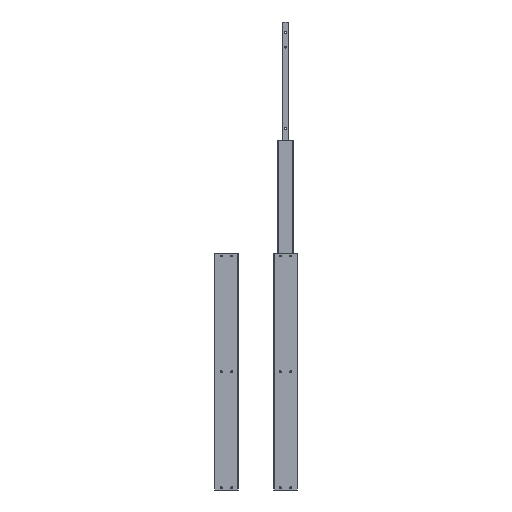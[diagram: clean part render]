
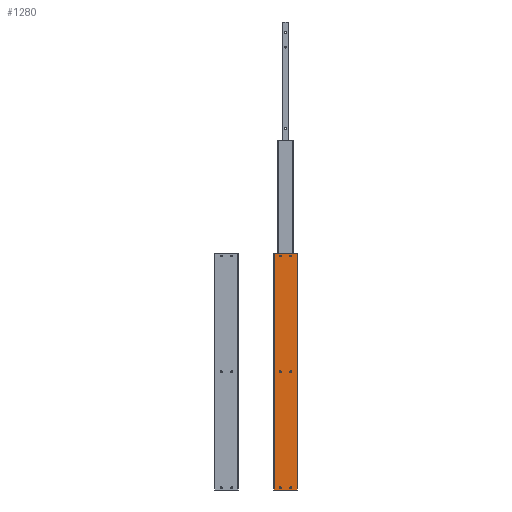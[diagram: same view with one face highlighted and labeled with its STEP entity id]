
A CAD part, left-side view. The second image highlights one B-rep face of the part: STEP entity #1280.
In plain terms, the highlighted planar face has unit normal (-1, 0, 0).
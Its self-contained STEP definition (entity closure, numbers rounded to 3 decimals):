
#213=CARTESIAN_POINT('',(0.,-17.5,-789.25));
#214=VERTEX_POINT('',#213);
#215=CARTESIAN_POINT('',(0.,-17.5,-792.5));
#216=DIRECTION('',(1.0,0.0,0.0));
#217=DIRECTION('',(0.0,0.0,-1.0));
#218=AXIS2_PLACEMENT_3D('',#215,#216,#217);
#219=CIRCLE('',#218,3.25);
#220=EDGE_CURVE('',#214,#214,#219,.T.);
#262=CARTESIAN_POINT('',(0.,17.5,-789.25));
#263=VERTEX_POINT('',#262);
#264=CARTESIAN_POINT('',(0.,17.5,-792.5));
#265=DIRECTION('',(1.0,0.0,0.0));
#266=DIRECTION('',(0.0,0.0,-1.0));
#267=AXIS2_PLACEMENT_3D('',#264,#265,#266);
#268=CIRCLE('',#267,3.25);
#269=EDGE_CURVE('',#263,#263,#268,.T.);
#360=CARTESIAN_POINT('',(0.,-17.5,-396.7));
#361=VERTEX_POINT('',#360);
#362=CARTESIAN_POINT('',(0.,-17.5,-400.0));
#363=DIRECTION('',(1.0,0.0,0.0));
#364=DIRECTION('',(0.0,0.0,-1.0));
#365=AXIS2_PLACEMENT_3D('',#362,#363,#364);
#366=CIRCLE('',#365,3.3);
#367=EDGE_CURVE('',#361,#361,#366,.T.);
#450=CARTESIAN_POINT('',(0.,17.5,-396.7));
#451=VERTEX_POINT('',#450);
#452=CARTESIAN_POINT('',(0.,17.5,-400.0));
#453=DIRECTION('',(1.0,0.0,0.0));
#454=DIRECTION('',(0.0,0.0,-1.0));
#455=AXIS2_PLACEMENT_3D('',#452,#453,#454);
#456=CIRCLE('',#455,3.3);
#457=EDGE_CURVE('',#451,#451,#456,.T.);
#540=CARTESIAN_POINT('',(0.,-17.5,-4.2));
#541=VERTEX_POINT('',#540);
#542=CARTESIAN_POINT('',(0.,-17.5,-7.5));
#543=DIRECTION('',(1.0,0.0,0.0));
#544=DIRECTION('',(0.0,0.0,-1.0));
#545=AXIS2_PLACEMENT_3D('',#542,#543,#544);
#546=CIRCLE('',#545,3.3);
#547=EDGE_CURVE('',#541,#541,#546,.T.);
#630=CARTESIAN_POINT('',(0.,17.5,-4.2));
#631=VERTEX_POINT('',#630);
#632=CARTESIAN_POINT('',(0.,17.5,-7.5));
#633=DIRECTION('',(1.0,0.0,0.0));
#634=DIRECTION('',(0.0,0.0,-1.0));
#635=AXIS2_PLACEMENT_3D('',#632,#633,#634);
#636=CIRCLE('',#635,3.3);
#637=EDGE_CURVE('',#631,#631,#636,.T.);
#957=CARTESIAN_POINT('',(0.,-39.,-800.0));
#958=VERTEX_POINT('',#957);
#967=CARTESIAN_POINT('',(0.,-39.,0.0));
#968=VERTEX_POINT('',#967);
#976=CARTESIAN_POINT('',(0.,-39.,0.0));
#977=DIRECTION('',(0.0,0.0,-1.0));
#978=VECTOR('',#977,800.0);
#979=LINE('',#976,#978);
#980=EDGE_CURVE('',#968,#958,#979,.T.);
#1213=CARTESIAN_POINT('',(0.,39.,-800.0));
#1214=VERTEX_POINT('',#1213);
#1222=CARTESIAN_POINT('',(0.,39.,0.0));
#1223=VERTEX_POINT('',#1222);
#1224=CARTESIAN_POINT('',(0.,39.,0.0));
#1225=DIRECTION('',(0.0,0.0,-1.0));
#1226=VECTOR('',#1225,800.0);
#1227=LINE('',#1224,#1226);
#1228=EDGE_CURVE('',#1223,#1214,#1227,.T.);
#1241=CARTESIAN_POINT('',(0.,39.,0.0));
#1242=DIRECTION('',(-1.0,0.0,0.0));
#1243=DIRECTION('',(0.0,0.0,1.0));
#1244=AXIS2_PLACEMENT_3D('',#1241,#1242,#1243);
#1245=PLANE('',#1244);
#1246=CARTESIAN_POINT('',(0.,-39.,-800.0));
#1247=DIRECTION('',(0.0,1.0,0.0));
#1248=VECTOR('',#1247,78.);
#1249=LINE('',#1246,#1248);
#1250=EDGE_CURVE('',#958,#1214,#1249,.T.);
#1251=ORIENTED_EDGE('',*,*,#1250,.F.);
#1252=ORIENTED_EDGE('',*,*,#980,.F.);
#1253=CARTESIAN_POINT('',(0.,39.,0.0));
#1254=DIRECTION('',(0.0,-1.0,0.0));
#1255=VECTOR('',#1254,78.);
#1256=LINE('',#1253,#1255);
#1257=EDGE_CURVE('',#1223,#968,#1256,.T.);
#1258=ORIENTED_EDGE('',*,*,#1257,.F.);
#1259=ORIENTED_EDGE('',*,*,#1228,.T.);
#1260=EDGE_LOOP('',(#1251,#1252,#1258,#1259));
#1261=FACE_OUTER_BOUND('',#1260,.T.);
#1262=ORIENTED_EDGE('',*,*,#220,.T.);
#1263=EDGE_LOOP('',(#1262));
#1264=FACE_BOUND('',#1263,.T.);
#1265=ORIENTED_EDGE('',*,*,#269,.T.);
#1266=EDGE_LOOP('',(#1265));
#1267=FACE_BOUND('',#1266,.T.);
#1268=ORIENTED_EDGE('',*,*,#367,.T.);
#1269=EDGE_LOOP('',(#1268));
#1270=FACE_BOUND('',#1269,.T.);
#1271=ORIENTED_EDGE('',*,*,#457,.T.);
#1272=EDGE_LOOP('',(#1271));
#1273=FACE_BOUND('',#1272,.T.);
#1274=ORIENTED_EDGE('',*,*,#547,.T.);
#1275=EDGE_LOOP('',(#1274));
#1276=FACE_BOUND('',#1275,.T.);
#1277=ORIENTED_EDGE('',*,*,#637,.T.);
#1278=EDGE_LOOP('',(#1277));
#1279=FACE_BOUND('',#1278,.T.);
#1280=ADVANCED_FACE('',(#1261,#1264,#1267,#1270,#1273,#1276,#1279),#1245,.T.);
